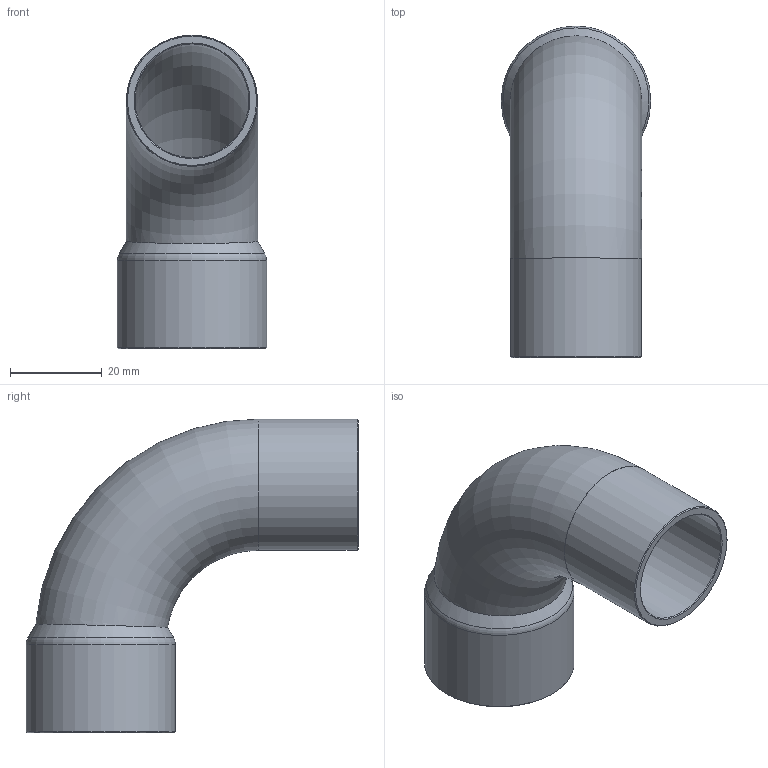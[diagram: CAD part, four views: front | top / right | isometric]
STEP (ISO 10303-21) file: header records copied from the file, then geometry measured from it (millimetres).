
FILE_DESCRIPTION((''),'2;1');
FILE_NAME('G:\SANHA-Ternat\Technik\Management\Bouwmaten + markeringen\z-maattekeningen 3D\29000s\29001A118_3d.stp','2017-07-26T10:08:52',('vdvijverd'),(''),'Autodesk Inventor 2009','Autodesk Inventor 2009','');
FILE_SCHEMA(('AUTOMOTIVE_DESIGN { 1 0 10303 214 1 1 1 1 }'));
Length unit declared in the file: millimetre
Products named in the file (1): 29001A118_3d
Bounding box: 32.52 x 72.26 x 68.28 mm (x, y, z)
Volume: 15706.9 mm3; surface area: 16883.8 mm2
Topology: 1 solids, 1 shells, 17 faces, 34 edges, 20 vertices
Faces by surface type: cone 6, cylinder 4, plane 3, torus 3, bspline 1
Full cylindrical faces by diameter (mm): 24.77 x1, 28.525 x1, 28.725 x1, 32.525 x1
Entity records: 480 total; most frequent: CARTESIAN_POINT 168, DIRECTION 64, ORIENTED_EDGE 34, EDGE_LOOP 34, AXIS2_PLACEMENT_3D 32, VERTEX_POINT 17, EDGE_CURVE 17, FACE_OUTER_BOUND 17
